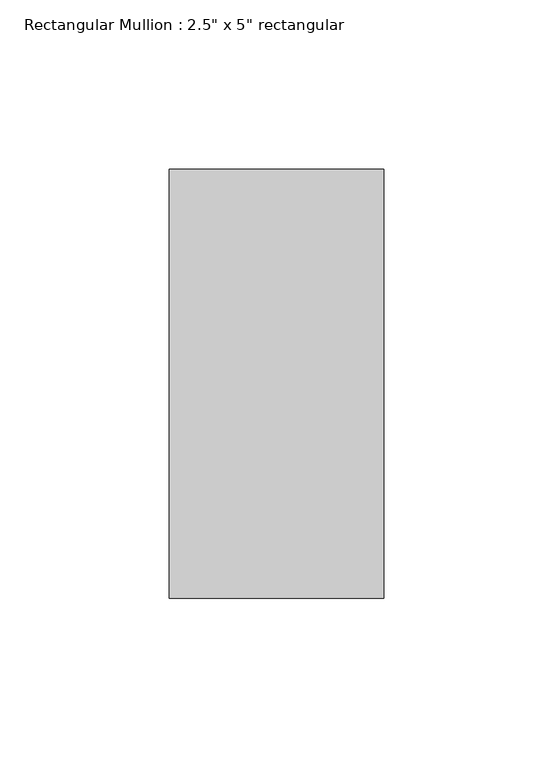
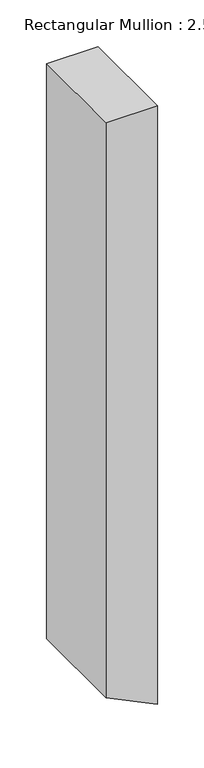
"""IFC4 building model written with IfcOpenShell, lengths in millimetres: member geometry."""

from ifc_helpers import new_model, si_unit, frame, origin, place, context, project, spatial, circle_curve, source, transform, mapped, element, save
from ifc_brep_helpers import plane_surface, cylinder_surface, advanced_brep


def member_a643bc77(model_context):
    return source(origin(), model_context, "Body", "AdvancedBrep", [
        advanced_brep(
        [(31.75, 63.5, 0.0), (-31.75, 63.5, 0.0), (-31.75, -63.5, 0.0), (31.75, -63.5, 0.0), (31.75, 63.5, -781.634866), (27.2141874, 63.5, -779.4869154), (-31.75, 63.5, -750.9083357), (-31.75, -63.5, -750.9083357), (27.2141874, -63.5, -779.4869154), (31.75, -63.5, -781.634866)],
        [
            (0, 1),
            (1, 2),
            (2, 3),
            (3, 0),
            (0, 4),
            (4, 5, circle_curve(frame((1698.1714284, 63.5, 2743.2), z_axis=(0.0, 1.0, 0.0), x_axis=(-0.1428571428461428, 0.0, -0.9897433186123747)), 3898.9)),
            (5, 6, circle_curve(frame((1698.1714284, 63.5, 2743.2), z_axis=(0.0, 1.0, 0.0), x_axis=(-0.4285714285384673, 0.0, -0.9035079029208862)), 3898.9)),
            (6, 1),
            (6, 7),
            (7, 2),
            (7, 8, circle_curve(frame((1698.1714284, -63.5, 2743.2), z_axis=(0.0, -1.0, 0.0), x_axis=(-0.4285714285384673, 0.0, -0.9035079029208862)), 3898.9)),
            (8, 9, circle_curve(frame((1698.1714284, -63.5, 2743.2), z_axis=(0.0, -1.0, 0.0), x_axis=(-0.1428571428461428, 0.0, -0.9897433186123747)), 3898.9)),
            (9, 3),
            (9, 4),
            (8, 5),
        ],
        [
            plane_surface(frame((0.0, -70.9951583, 0.0), z_axis=(0.0, 0.0, 1.0), x_axis=(-1.0, 0.0, 0.0))),
            plane_surface(frame((31.75, 63.5, 0.0), z_axis=(0.0, 1.0, 0.0), x_axis=(0.0, 0.0, -1.0))),
            plane_surface(frame((-31.75, 63.5, 0.0), z_axis=(-1.0, 0.0, 0.0), x_axis=(0.0, 0.0, -1.0))),
            plane_surface(frame((-31.75, -63.5, 0.0), z_axis=(0.0, -1.0, 0.0), x_axis=(0.0, 0.0, -1.0))),
            plane_surface(frame((31.75, -63.5, 0.0), z_axis=(1.0, 0.0, 0.0), x_axis=(0.0, 0.0, -1.0))),
            cylinder_surface(frame((1698.1714284, 0.0, 2743.2), z_axis=(0.0, 1.0, 0.0), x_axis=(-0.1428571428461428, 0.0, -0.9897433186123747)), 3898.9),
            cylinder_surface(frame((1698.1714284, 0.0, 2743.2), z_axis=(0.0, 1.0, 0.0), x_axis=(-0.4285714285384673, 0.0, -0.9035079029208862)), 3898.9),
        ],
        [
            (0, [[1, 2, 3, 4]]),
            (1, [[-1, 5, 6, 7, 8]]),
            (2, [[-2, -8, 9, 10]]),
            (3, [[-3, -10, 11, 12, 13]]),
            (4, [[-4, -13, 14, -5]]),
            (5, [[-14, -12, 15, -6]]),
            (6, [[-11, -9, -7, -15]]),
        ],
    ),
    ])


if __name__ == "__main__":
    model = new_model("IFC4")
    model_context = context("Model", 3, world=origin())
    ifc_project = project(units=[si_unit("LENGTHUNIT", "METRE", prefix="MILLI")], contexts=[model_context])
    site = spatial("IfcSite", under=ifc_project)
    building = spatial("IfcBuilding", under=site)
    placement = place(None, origin())
    member_shape = member_a643bc77(model_context)
    element("IfcMember", 1, ObjectType="Rectangular Mullion : 2.5\" x 5\" rectangular", at=placement, inside=building, context=model_context, shape_type="MappedRepresentation", body=[
        mapped(member_shape, transform((0.0, 0.0, 0.0), x_axis=(1.0, 0.0, 0.0), y_axis=(0.0, 1.0, 0.0), z_axis=(0.0, 0.0, 1.0))),
    ])
    save(model, "model.ifc")
